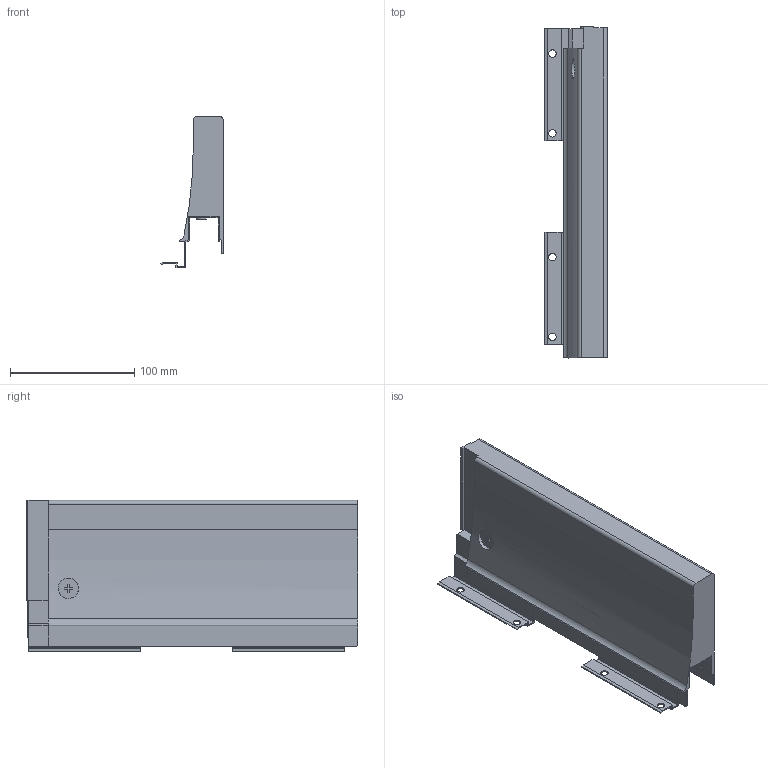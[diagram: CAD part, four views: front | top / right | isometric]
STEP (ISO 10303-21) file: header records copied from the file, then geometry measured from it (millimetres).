
FILE_DESCRIPTION (( 'STEP AP214' ), '1' );
FILE_NAME ('_XP Agantis Dekorseite H127 NL275 RE.step', '2010-07-08T06:22:03', ( 'grass' ), ( '' ), 'SwSTEP 2.0', 'SolidWorks 2010', '' );
FILE_SCHEMA (( 'AUTOMOTIVE_DESIGN' ));
Length unit declared in the file: millimetre
Products named in the file (1): _XP Agantis Dekorseite H127 NL275 RE
Bounding box: 50.01 x 266.5 x 121.5 mm (x, y, z)
Volume: 579838.1 mm3; surface area: 111812.4 mm2
Topology: 1 solids, 1 shells, 119 faces, 343 edges, 225 vertices
Faces by surface type: plane 94, cylinder 25
Entity records: 3999 total; most frequent: CARTESIAN_POINT 775, ORIENTED_EDGE 686, DIRECTION 630, EDGE_CURVE 343, VECTOR 292, LINE 292, VERTEX_POINT 225, AXIS2_PLACEMENT_3D 169
